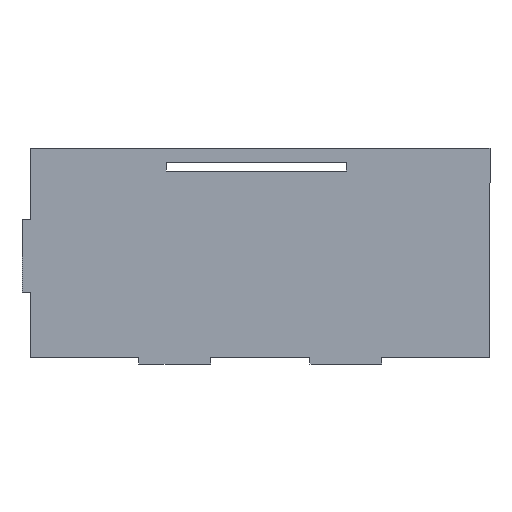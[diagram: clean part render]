
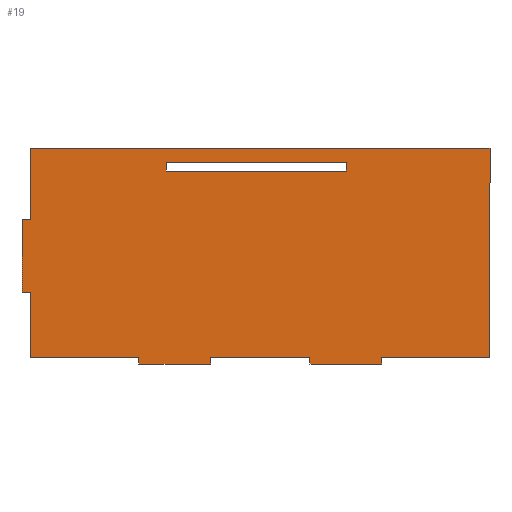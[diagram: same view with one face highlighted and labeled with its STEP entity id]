
A CAD part, front view. The second image highlights one B-rep face of the part: STEP entity #19.
In plain terms, the highlighted planar face has unit normal (0, -1, 0).
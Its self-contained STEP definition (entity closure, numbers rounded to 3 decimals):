
#7 = EDGE_CURVE ( 'NONE', #206, #258, #112, .T. ) ;
#9 = VECTOR ( 'NONE', #690, 1000. ) ;
#11 = ORIENTED_EDGE ( 'NONE', *, *, #514, .F. ) ;
#13 = CARTESIAN_POINT ( 'NONE',  ( -2262.897, 0., 488.765 ) ) ;
#18 = ORIENTED_EDGE ( 'NONE', *, *, #251, .F. ) ;
#19 = ADVANCED_FACE ( 'NONE', ( #357, #239 ), #183, .T. ) ;
#22 = LINE ( 'NONE', #200, #345 ) ;
#31 = EDGE_CURVE ( 'NONE', #566, #92, #539, .T. ) ;
#32 = ORIENTED_EDGE ( 'NONE', *, *, #125, .T. ) ;
#48 = CARTESIAN_POINT ( 'NONE',  ( -2262.897, 0., 779.099 ) ) ;
#49 = LINE ( 'NONE', #155, #395 ) ;
#61 = VECTOR ( 'NONE', #85, 1000. ) ;
#62 = EDGE_CURVE ( 'NONE', #721, #201, #638, .T. ) ;
#63 = CARTESIAN_POINT ( 'NONE',  ( -2112.897, 0., 479.099 ) ) ;
#66 = VECTOR ( 'NONE', #375, 1000. ) ;
#67 = VERTEX_POINT ( 'NONE', #304 ) ;
#72 = LINE ( 'NONE', #410, #358 ) ;
#75 = CARTESIAN_POINT ( 'NONE',  ( -2012.897, 0., 488.765 ) ) ;
#83 = DIRECTION ( 'NONE',  ( 0., 0., 1. ) ) ;
#85 = DIRECTION ( 'NONE',  ( -1., 0., 0. ) ) ;
#86 = EDGE_CURVE ( 'NONE', #67, #566, #707, .T. ) ;
#91 = VERTEX_POINT ( 'NONE', #700 ) ;
#92 = VERTEX_POINT ( 'NONE', #581 ) ;
#97 = ORIENTED_EDGE ( 'NONE', *, *, #536, .T. ) ;
#112 = LINE ( 'NONE', #565, #294 ) ;
#113 = EDGE_LOOP ( 'NONE', ( #115, #560, #658, #564, #261, #151, #717, #400, #219, #18, #635, #499, #11, #228, #552, #397 ) ) ;
#114 = VERTEX_POINT ( 'NONE', #585 ) ;
#115 = ORIENTED_EDGE ( 'NONE', *, *, #31, .F. ) ;
#117 = DIRECTION ( 'NONE',  ( 0., 0., 1. ) ) ;
#125 = EDGE_CURVE ( 'NONE', #258, #618, #432, .T. ) ;
#128 = ORIENTED_EDGE ( 'NONE', *, *, #7, .T. ) ;
#134 = CARTESIAN_POINT ( 'NONE',  ( -1774.897, 0., 488.765 ) ) ;
#138 = LINE ( 'NONE', #75, #611 ) ;
#148 = DIRECTION ( 'NONE',  ( 0., 0., 1. ) ) ;
#151 = ORIENTED_EDGE ( 'NONE', *, *, #62, .F. ) ;
#153 = VECTOR ( 'NONE', #445, 1000. ) ;
#154 = CARTESIAN_POINT ( 'NONE',  ( -1874.897, 0., 479.099 ) ) ;
#155 = CARTESIAN_POINT ( 'NONE',  ( -2274.897, 0., 579.099 ) ) ;
#172 = EDGE_CURVE ( 'NONE', #340, #67, #334, .T. ) ;
#183 = PLANE ( 'NONE',  #187 ) ;
#184 = VERTEX_POINT ( 'NONE', #221 ) ;
#185 = CARTESIAN_POINT ( 'NONE',  ( -1824.897, 0., 747.099 ) ) ;
#187 = AXIS2_PLACEMENT_3D ( 'NONE', #634, #691, #371 ) ;
#193 = EDGE_CURVE ( 'NONE', #729, #327, #722, .T. ) ;
#197 = CARTESIAN_POINT ( 'NONE',  ( -1774.897, 0., 479.099 ) ) ;
#200 = CARTESIAN_POINT ( 'NONE',  ( -2274.897, 0., 679.099 ) ) ;
#201 = VERTEX_POINT ( 'NONE', #449 ) ;
#202 = VECTOR ( 'NONE', #365, 1000. ) ;
#206 = VERTEX_POINT ( 'NONE', #494 ) ;
#216 = DIRECTION ( 'NONE',  ( 0., 0., -1. ) ) ;
#218 = EDGE_CURVE ( 'NONE', #201, #678, #555, .T. ) ;
#219 = ORIENTED_EDGE ( 'NONE', *, *, #193, .F. ) ;
#221 = CARTESIAN_POINT ( 'NONE',  ( -2262.897, 0., 779.099 ) ) ;
#225 = DIRECTION ( 'NONE',  ( 1., 0., 0. ) ) ;
#228 = ORIENTED_EDGE ( 'NONE', *, *, #574, .F. ) ;
#239 = FACE_BOUND ( 'NONE', #443, .T. ) ;
#245 = DIRECTION ( 'NONE',  ( 0., 0., 1. ) ) ;
#251 = EDGE_CURVE ( 'NONE', #184, #729, #606, .T. ) ;
#252 = DIRECTION ( 'NONE',  ( 0., 0., -1. ) ) ;
#256 = CARTESIAN_POINT ( 'NONE',  ( -1824.897, 0., 759.099 ) ) ;
#258 = VERTEX_POINT ( 'NONE', #669 ) ;
#261 = ORIENTED_EDGE ( 'NONE', *, *, #218, .F. ) ;
#268 = CARTESIAN_POINT ( 'NONE',  ( -2012.897, 0., 479.099 ) ) ;
#269 = CARTESIAN_POINT ( 'NONE',  ( -2274.897, 0., 679.099 ) ) ;
#270 = VERTEX_POINT ( 'NONE', #613 ) ;
#272 = DIRECTION ( 'NONE',  ( 0., 0., -1. ) ) ;
#279 = EDGE_CURVE ( 'NONE', #270, #184, #299, .T. ) ;
#287 = VECTOR ( 'NONE', #148, 1000. ) ;
#288 = CARTESIAN_POINT ( 'NONE',  ( -2262.897, 0., 488.765 ) ) ;
#291 = CARTESIAN_POINT ( 'NONE',  ( -2074.897, 0., 759.099 ) ) ;
#293 = CARTESIAN_POINT ( 'NONE',  ( -2262.897, 0., 488.765 ) ) ;
#294 = VECTOR ( 'NONE', #225, 1000. ) ;
#299 = LINE ( 'NONE', #476, #626 ) ;
#303 = DIRECTION ( 'NONE',  ( -1., 0., 0. ) ) ;
#304 = CARTESIAN_POINT ( 'NONE',  ( -2012.897, 0., 479.099 ) ) ;
#305 = CARTESIAN_POINT ( 'NONE',  ( -1624.897, 0., 488.765 ) ) ;
#309 = CARTESIAN_POINT ( 'NONE',  ( -2274.897, 0., 579.099 ) ) ;
#316 = CARTESIAN_POINT ( 'NONE',  ( -2112.897, 0., 479.099 ) ) ;
#319 = CARTESIAN_POINT ( 'NONE',  ( -1774.897, 0., 479.099 ) ) ;
#327 = VERTEX_POINT ( 'NONE', #305 ) ;
#328 = VERTEX_POINT ( 'NONE', #520 ) ;
#329 = EDGE_CURVE ( 'NONE', #92, #596, #356, .T. ) ;
#334 = LINE ( 'NONE', #268, #650 ) ;
#336 = ORIENTED_EDGE ( 'NONE', *, *, #623, .T. ) ;
#337 = VECTOR ( 'NONE', #272, 1000. ) ;
#340 = VERTEX_POINT ( 'NONE', #633 ) ;
#343 = EDGE_CURVE ( 'NONE', #114, #721, #429, .T. ) ;
#345 = VECTOR ( 'NONE', #696, 1000. ) ;
#349 = EDGE_CURVE ( 'NONE', #456, #270, #22, .T. ) ;
#356 = LINE ( 'NONE', #13, #9 ) ;
#357 = FACE_OUTER_BOUND ( 'NONE', #113, .T. ) ;
#358 = VECTOR ( 'NONE', #303, 1000. ) ;
#360 = LINE ( 'NONE', #291, #641 ) ;
#365 = DIRECTION ( 'NONE',  ( -1., 0., 0. ) ) ;
#367 = DIRECTION ( 'NONE',  ( -1., 0., 0. ) ) ;
#371 = DIRECTION ( 'NONE',  ( 0., 0., -1. ) ) ;
#375 = DIRECTION ( 'NONE',  ( 0., 0., -1. ) ) ;
#395 = VECTOR ( 'NONE', #433, 1000. ) ;
#397 = ORIENTED_EDGE ( 'NONE', *, *, #329, .F. ) ;
#400 = ORIENTED_EDGE ( 'NONE', *, *, #732, .F. ) ;
#409 = VERTEX_POINT ( 'NONE', #309 ) ;
#410 = CARTESIAN_POINT ( 'NONE',  ( -2274.897, 0., 579.099 ) ) ;
#414 = VECTOR ( 'NONE', #83, 1000. ) ;
#426 = DIRECTION ( 'NONE',  ( -1., 0., 0. ) ) ;
#429 = LINE ( 'NONE', #197, #517 ) ;
#432 = LINE ( 'NONE', #256, #66 ) ;
#433 = DIRECTION ( 'NONE',  ( 0., 0., 1. ) ) ;
#443 = EDGE_LOOP ( 'NONE', ( #97, #336, #128, #32 ) ) ;
#445 = DIRECTION ( 'NONE',  ( 1., 0., 0. ) ) ;
#446 = LINE ( 'NONE', #599, #577 ) ;
#449 = CARTESIAN_POINT ( 'NONE',  ( -1874.897, 0., 479.099 ) ) ;
#456 = VERTEX_POINT ( 'NONE', #269 ) ;
#476 = CARTESIAN_POINT ( 'NONE',  ( -2262.897, 0., 679.099 ) ) ;
#480 = DIRECTION ( 'NONE',  ( 0., 0., 1. ) ) ;
#494 = CARTESIAN_POINT ( 'NONE',  ( -2074.897, 0., 759.099 ) ) ;
#499 = ORIENTED_EDGE ( 'NONE', *, *, #349, .F. ) ;
#514 = EDGE_CURVE ( 'NONE', #409, #456, #49, .T. ) ;
#517 = VECTOR ( 'NONE', #252, 1000. ) ;
#520 = CARTESIAN_POINT ( 'NONE',  ( -2262.897, 0., 579.099 ) ) ;
#536 = EDGE_CURVE ( 'NONE', #618, #91, #446, .T. ) ;
#539 = LINE ( 'NONE', #592, #414 ) ;
#540 = LINE ( 'NONE', #134, #582 ) ;
#545 = CARTESIAN_POINT ( 'NONE',  ( -1624.897, 0., 488.765 ) ) ;
#552 = ORIENTED_EDGE ( 'NONE', *, *, #567, .F. ) ;
#555 = LINE ( 'NONE', #154, #287 ) ;
#560 = ORIENTED_EDGE ( 'NONE', *, *, #86, .F. ) ;
#564 = ORIENTED_EDGE ( 'NONE', *, *, #701, .F. ) ;
#565 = CARTESIAN_POINT ( 'NONE',  ( -2074.897, 0., 759.099 ) ) ;
#566 = VERTEX_POINT ( 'NONE', #63 ) ;
#567 = EDGE_CURVE ( 'NONE', #596, #328, #572, .T. ) ;
#572 = LINE ( 'NONE', #293, #637 ) ;
#574 = EDGE_CURVE ( 'NONE', #328, #409, #72, .T. ) ;
#577 = VECTOR ( 'NONE', #689, 1000. ) ;
#581 = CARTESIAN_POINT ( 'NONE',  ( -2112.897, 0., 488.765 ) ) ;
#582 = VECTOR ( 'NONE', #367, 1000. ) ;
#585 = CARTESIAN_POINT ( 'NONE',  ( -1774.897, 0., 488.765 ) ) ;
#592 = CARTESIAN_POINT ( 'NONE',  ( -2112.897, 0., 488.765 ) ) ;
#596 = VERTEX_POINT ( 'NONE', #288 ) ;
#599 = CARTESIAN_POINT ( 'NONE',  ( -2074.897, 0., 747.099 ) ) ;
#606 = LINE ( 'NONE', #48, #153 ) ;
#611 = VECTOR ( 'NONE', #426, 1000. ) ;
#613 = CARTESIAN_POINT ( 'NONE',  ( -2262.897, 0., 679.099 ) ) ;
#618 = VERTEX_POINT ( 'NONE', #185 ) ;
#623 = EDGE_CURVE ( 'NONE', #91, #206, #360, .T. ) ;
#626 = VECTOR ( 'NONE', #480, 1000. ) ;
#629 = CARTESIAN_POINT ( 'NONE',  ( -1874.897, 0., 488.765 ) ) ;
#633 = CARTESIAN_POINT ( 'NONE',  ( -2012.897, 0., 488.765 ) ) ;
#634 = CARTESIAN_POINT ( 'NONE',  ( 0., 0., 0. ) ) ;
#635 = ORIENTED_EDGE ( 'NONE', *, *, #279, .F. ) ;
#637 = VECTOR ( 'NONE', #117, 1000. ) ;
#638 = LINE ( 'NONE', #712, #61 ) ;
#641 = VECTOR ( 'NONE', #245, 1000. ) ;
#646 = CARTESIAN_POINT ( 'NONE',  ( -1624.897, 0., 779.099 ) ) ;
#650 = VECTOR ( 'NONE', #216, 1000. ) ;
#658 = ORIENTED_EDGE ( 'NONE', *, *, #172, .F. ) ;
#669 = CARTESIAN_POINT ( 'NONE',  ( -1824.897, 0., 759.099 ) ) ;
#678 = VERTEX_POINT ( 'NONE', #629 ) ;
#689 = DIRECTION ( 'NONE',  ( -1., 0., 0. ) ) ;
#690 = DIRECTION ( 'NONE',  ( -1., 0., 0. ) ) ;
#691 = DIRECTION ( 'NONE',  ( 0., -1., 0. ) ) ;
#696 = DIRECTION ( 'NONE',  ( 1., 0., 0. ) ) ;
#700 = CARTESIAN_POINT ( 'NONE',  ( -2074.897, 0., 747.099 ) ) ;
#701 = EDGE_CURVE ( 'NONE', #678, #340, #138, .T. ) ;
#707 = LINE ( 'NONE', #316, #202 ) ;
#712 = CARTESIAN_POINT ( 'NONE',  ( -1874.897, 0., 479.099 ) ) ;
#717 = ORIENTED_EDGE ( 'NONE', *, *, #343, .F. ) ;
#721 = VERTEX_POINT ( 'NONE', #319 ) ;
#722 = LINE ( 'NONE', #545, #337 ) ;
#729 = VERTEX_POINT ( 'NONE', #646 ) ;
#732 = EDGE_CURVE ( 'NONE', #327, #114, #540, .T. ) ;
